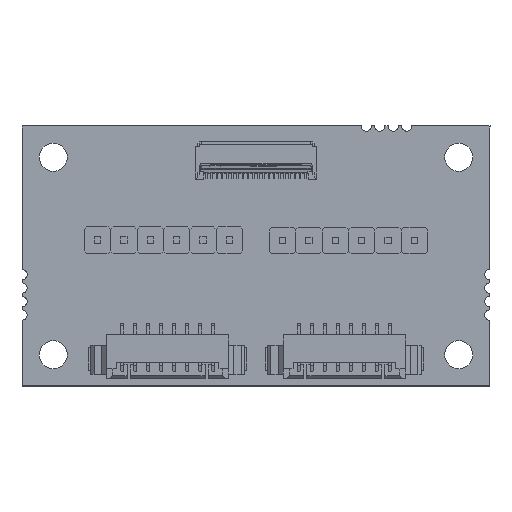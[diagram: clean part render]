
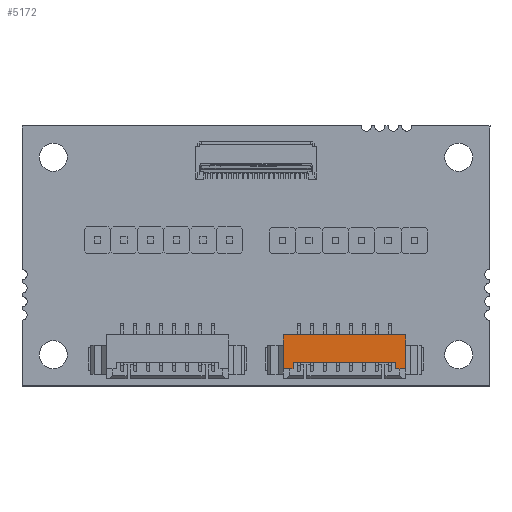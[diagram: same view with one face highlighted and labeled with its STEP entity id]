
A CAD part, top view. The second image highlights one B-rep face of the part: STEP entity #5172.
In plain terms, the highlighted planar face has unit normal (0, 0, 1).
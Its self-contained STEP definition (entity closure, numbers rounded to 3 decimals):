
#3320 = EDGE_CURVE('',#3321,#3323,#3325,.T.);
#3321 = VERTEX_POINT('',#3322);
#3322 = CARTESIAN_POINT('',(-5.875,-2.1,1.6));
#3323 = VERTEX_POINT('',#3324);
#3324 = CARTESIAN_POINT('',(5.875,-2.1,1.6));
#3325 = LINE('',#3326,#3327);
#3326 = CARTESIAN_POINT('',(0.,-2.1,1.6));
#3327 = VECTOR('',#3328,1.);
#3328 = DIRECTION('',(1.,0.,0.));
#5130 = VERTEX_POINT('',#5131);
#5131 = CARTESIAN_POINT('',(5.875,1.15,1.6));
#5137 = EDGE_CURVE('',#3323,#5130,#5138,.T.);
#5138 = LINE('',#5139,#5140);
#5139 = CARTESIAN_POINT('',(5.875,0.,1.6));
#5140 = VECTOR('',#5141,1.);
#5141 = DIRECTION('',(0.,1.,0.));
#5172 = ADVANCED_FACE('',(#5173),#5223,.T.);
#5173 = FACE_BOUND('',#5174,.T.);
#5174 = EDGE_LOOP('',(#5175,#5185,#5193,#5199,#5200,#5201,#5209,#5217));
#5175 = ORIENTED_EDGE('',*,*,#5176,.F.);
#5176 = EDGE_CURVE('',#5177,#5179,#5181,.T.);
#5177 = VERTEX_POINT('',#5178);
#5178 = CARTESIAN_POINT('',(-4.935,1.15,1.6));
#5179 = VERTEX_POINT('',#5180);
#5180 = CARTESIAN_POINT('',(-4.935,0.58,1.6));
#5181 = LINE('',#5182,#5183);
#5182 = CARTESIAN_POINT('',(-4.935,-0.475,1.6));
#5183 = VECTOR('',#5184,1.);
#5184 = DIRECTION('',(0.,-1.,0.));
#5185 = ORIENTED_EDGE('',*,*,#5186,.F.);
#5186 = EDGE_CURVE('',#5187,#5177,#5189,.T.);
#5187 = VERTEX_POINT('',#5188);
#5188 = CARTESIAN_POINT('',(-5.875,1.15,1.6));
#5189 = LINE('',#5190,#5191);
#5190 = CARTESIAN_POINT('',(0.,1.15,1.6));
#5191 = VECTOR('',#5192,1.);
#5192 = DIRECTION('',(1.,0.,0.));
#5193 = ORIENTED_EDGE('',*,*,#5194,.F.);
#5194 = EDGE_CURVE('',#3321,#5187,#5195,.T.);
#5195 = LINE('',#5196,#5197);
#5196 = CARTESIAN_POINT('',(-5.875,-0.475,1.6));
#5197 = VECTOR('',#5198,1.);
#5198 = DIRECTION('',(0.,1.,0.));
#5199 = ORIENTED_EDGE('',*,*,#3320,.T.);
#5200 = ORIENTED_EDGE('',*,*,#5137,.T.);
#5201 = ORIENTED_EDGE('',*,*,#5202,.F.);
#5202 = EDGE_CURVE('',#5203,#5130,#5205,.T.);
#5203 = VERTEX_POINT('',#5204);
#5204 = CARTESIAN_POINT('',(4.935,1.15,1.6));
#5205 = LINE('',#5206,#5207);
#5206 = CARTESIAN_POINT('',(0.,1.15,1.6));
#5207 = VECTOR('',#5208,1.);
#5208 = DIRECTION('',(1.,0.,0.));
#5209 = ORIENTED_EDGE('',*,*,#5210,.F.);
#5210 = EDGE_CURVE('',#5211,#5203,#5213,.T.);
#5211 = VERTEX_POINT('',#5212);
#5212 = CARTESIAN_POINT('',(4.935,0.58,1.6));
#5213 = LINE('',#5214,#5215);
#5214 = CARTESIAN_POINT('',(4.935,-0.475,1.6));
#5215 = VECTOR('',#5216,1.);
#5216 = DIRECTION('',(0.,1.,0.));
#5217 = ORIENTED_EDGE('',*,*,#5218,.F.);
#5218 = EDGE_CURVE('',#5179,#5211,#5219,.T.);
#5219 = LINE('',#5220,#5221);
#5220 = CARTESIAN_POINT('',(0.,0.58,1.6));
#5221 = VECTOR('',#5222,1.);
#5222 = DIRECTION('',(1.,0.,0.));
#5223 = PLANE('',#5224);
#5224 = AXIS2_PLACEMENT_3D('',#5225,#5226,#5227);
#5225 = CARTESIAN_POINT('',(-6.11,-2.165,1.6));
#5226 = DIRECTION('',(0.,0.,1.));
#5227 = DIRECTION('',(1.,0.,0.));
